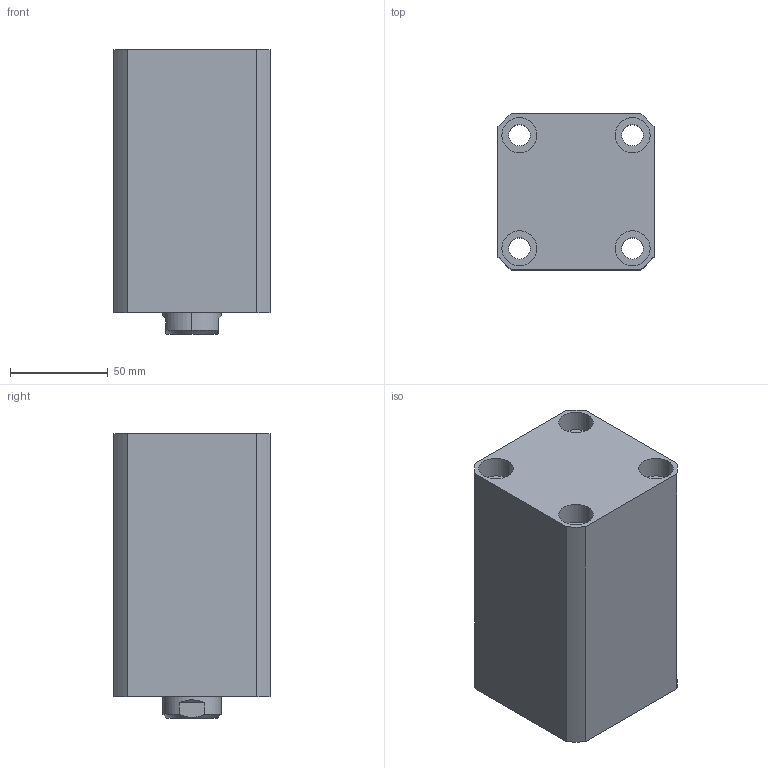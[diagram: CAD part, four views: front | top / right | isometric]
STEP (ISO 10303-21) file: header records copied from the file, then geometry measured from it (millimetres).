
FILE_DESCRIPTION (( 'STEP AP203' ), '1' );
FILE_NAME ('CHTB-SDMA50-75N.STEP', '2018-05-19T02:37:31', ( '' ), ( '' ), 'SwSTEP 2.0', 'SolidWorks 2015', '' );
FILE_SCHEMA (( 'CONFIG_CONTROL_DESIGN' ));
Length unit declared in the file: millimetre
Products named in the file (5): 活塞杆SDMA50-75N; CHTB-SDMA50-75N; 掛极SDMA50-75N; CHTM-SDMA50QG; M6
Assembly tree (5 placements, depth 2):
  CHTB-SDMA50-75N
    掛极SDMA50-75N
    活塞杆SDMA50-75N
    CHTM-SDMA50QG
    M6  x2
Bounding box: 80 x 80 x 146 mm (x, y, z)
Volume: 686000 mm3; surface area: 131532.1 mm2
Topology: 5 solids, 5 shells, 270 faces, 703 edges, 464 vertices
Faces by surface type: cylinder 139, plane 58, cone 31, bspline 26, torus 16
Entity records: 14133 total; most frequent: CARTESIAN_POINT 8131, ORIENTED_EDGE 1208, DIRECTION 1054, EDGE_CURVE 604, AXIS2_PLACEMENT_3D 433, VERTEX_POINT 403, EDGE_LOOP 277, ADVANCED_FACE 235
